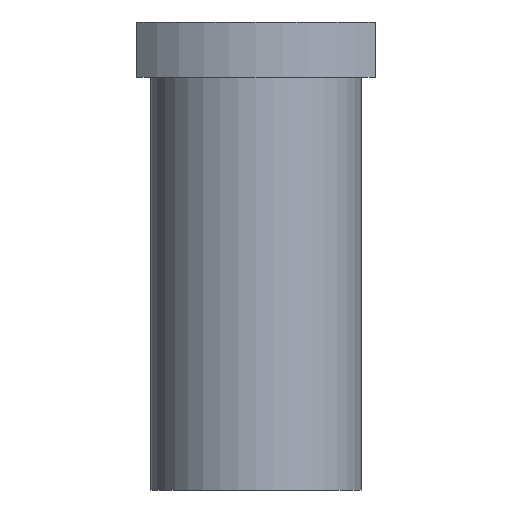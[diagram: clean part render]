
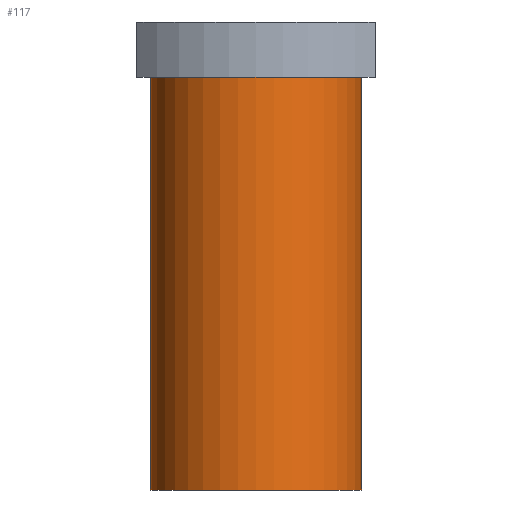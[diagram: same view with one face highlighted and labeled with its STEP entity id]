
A CAD part, front view. The second image highlights one B-rep face of the part: STEP entity #117.
In plain terms, the highlighted cylindrical face has radius 23 mm (diameter 46 mm), a full revolution.
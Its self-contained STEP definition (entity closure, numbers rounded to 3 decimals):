
#21 = EDGE_CURVE('',#22,#22,#24,.T.);
#22 = VERTEX_POINT('',#23);
#23 = CARTESIAN_POINT('',(23.,0.,-102.));
#24 = SURFACE_CURVE('',#25,(#30,#42),.PCURVE_S1.);
#25 = CIRCLE('',#26,23.);
#26 = AXIS2_PLACEMENT_3D('',#27,#28,#29);
#27 = CARTESIAN_POINT('',(0.,0.,-102.));
#28 = DIRECTION('',(0.,0.,-1.));
#29 = DIRECTION('',(1.,0.,0.));
#30 = PCURVE('',#31,#36);
#31 = PLANE('',#32);
#32 = AXIS2_PLACEMENT_3D('',#33,#34,#35);
#33 = CARTESIAN_POINT('',(0.,0.,-102.));
#34 = DIRECTION('',(0.,0.,-1.));
#35 = DIRECTION('',(-1.,0.,0.));
#36 = DEFINITIONAL_REPRESENTATION('',(#37),#41);
#37 = CIRCLE('',#38,23.);
#38 = AXIS2_PLACEMENT_2D('',#39,#40);
#39 = CARTESIAN_POINT('',(0.,0.));
#40 = DIRECTION('',(-1.,0.));
#41 = ( GEOMETRIC_REPRESENTATION_CONTEXT(2) 
PARAMETRIC_REPRESENTATION_CONTEXT() REPRESENTATION_CONTEXT('2D SPACE',''
  ) );
#42 = PCURVE('',#43,#48);
#43 = CYLINDRICAL_SURFACE('',#44,23.);
#44 = AXIS2_PLACEMENT_3D('',#45,#46,#47);
#45 = CARTESIAN_POINT('',(0.,0.,-23.5));
#46 = DIRECTION('',(0.,0.,-1.));
#47 = DIRECTION('',(-1.,0.,0.));
#48 = DEFINITIONAL_REPRESENTATION('',(#49),#53);
#49 = LINE('',#50,#51);
#50 = CARTESIAN_POINT('',(-3.142,78.5));
#51 = VECTOR('',#52,1.);
#52 = DIRECTION('',(1.,0.));
#53 = ( GEOMETRIC_REPRESENTATION_CONTEXT(2) 
PARAMETRIC_REPRESENTATION_CONTEXT() REPRESENTATION_CONTEXT('2D SPACE',''
  ) );
#117 = ADVANCED_FACE('',(#118),#43,.T.);
#118 = FACE_BOUND('',#119,.T.);
#119 = EDGE_LOOP('',(#120,#121,#144,#171));
#120 = ORIENTED_EDGE('',*,*,#21,.F.);
#121 = ORIENTED_EDGE('',*,*,#122,.T.);
#122 = EDGE_CURVE('',#22,#123,#125,.T.);
#123 = VERTEX_POINT('',#124);
#124 = CARTESIAN_POINT('',(23.,0.,-12.));
#125 = SEAM_CURVE('',#126,(#130,#137),.PCURVE_S1.);
#126 = LINE('',#127,#128);
#127 = CARTESIAN_POINT('',(23.,0.,-23.5));
#128 = VECTOR('',#129,1.);
#129 = DIRECTION('',(0.,0.,1.));
#130 = PCURVE('',#43,#131);
#131 = DEFINITIONAL_REPRESENTATION('',(#132),#136);
#132 = LINE('',#133,#134);
#133 = CARTESIAN_POINT('',(-3.142,0.));
#134 = VECTOR('',#135,1.);
#135 = DIRECTION('',(0.,-1.));
#136 = ( GEOMETRIC_REPRESENTATION_CONTEXT(2) 
PARAMETRIC_REPRESENTATION_CONTEXT() REPRESENTATION_CONTEXT('2D SPACE',''
  ) );
#137 = PCURVE('',#43,#138);
#138 = DEFINITIONAL_REPRESENTATION('',(#139),#143);
#139 = LINE('',#140,#141);
#140 = CARTESIAN_POINT('',(3.142,0.));
#141 = VECTOR('',#142,1.);
#142 = DIRECTION('',(0.,-1.));
#143 = ( GEOMETRIC_REPRESENTATION_CONTEXT(2) 
PARAMETRIC_REPRESENTATION_CONTEXT() REPRESENTATION_CONTEXT('2D SPACE',''
  ) );
#144 = ORIENTED_EDGE('',*,*,#145,.T.);
#145 = EDGE_CURVE('',#123,#123,#146,.T.);
#146 = SURFACE_CURVE('',#147,(#152,#159),.PCURVE_S1.);
#147 = CIRCLE('',#148,23.);
#148 = AXIS2_PLACEMENT_3D('',#149,#150,#151);
#149 = CARTESIAN_POINT('',(0.,0.,-12.));
#150 = DIRECTION('',(0.,0.,-1.));
#151 = DIRECTION('',(-1.,0.,0.));
#152 = PCURVE('',#43,#153);
#153 = DEFINITIONAL_REPRESENTATION('',(#154),#158);
#154 = LINE('',#155,#156);
#155 = CARTESIAN_POINT('',(-6.283,-11.5));
#156 = VECTOR('',#157,1.);
#157 = DIRECTION('',(1.,0.));
#158 = ( GEOMETRIC_REPRESENTATION_CONTEXT(2) 
PARAMETRIC_REPRESENTATION_CONTEXT() REPRESENTATION_CONTEXT('2D SPACE',''
  ) );
#159 = PCURVE('',#160,#165);
#160 = PLANE('',#161);
#161 = AXIS2_PLACEMENT_3D('',#162,#163,#164);
#162 = CARTESIAN_POINT('',(0.,0.,-12.));
#163 = DIRECTION('',(0.,0.,-1.));
#164 = DIRECTION('',(-1.,0.,0.));
#165 = DEFINITIONAL_REPRESENTATION('',(#166),#170);
#166 = CIRCLE('',#167,23.);
#167 = AXIS2_PLACEMENT_2D('',#168,#169);
#168 = CARTESIAN_POINT('',(0.,0.));
#169 = DIRECTION('',(1.,0.));
#170 = ( GEOMETRIC_REPRESENTATION_CONTEXT(2) 
PARAMETRIC_REPRESENTATION_CONTEXT() REPRESENTATION_CONTEXT('2D SPACE',''
  ) );
#171 = ORIENTED_EDGE('',*,*,#122,.F.);
